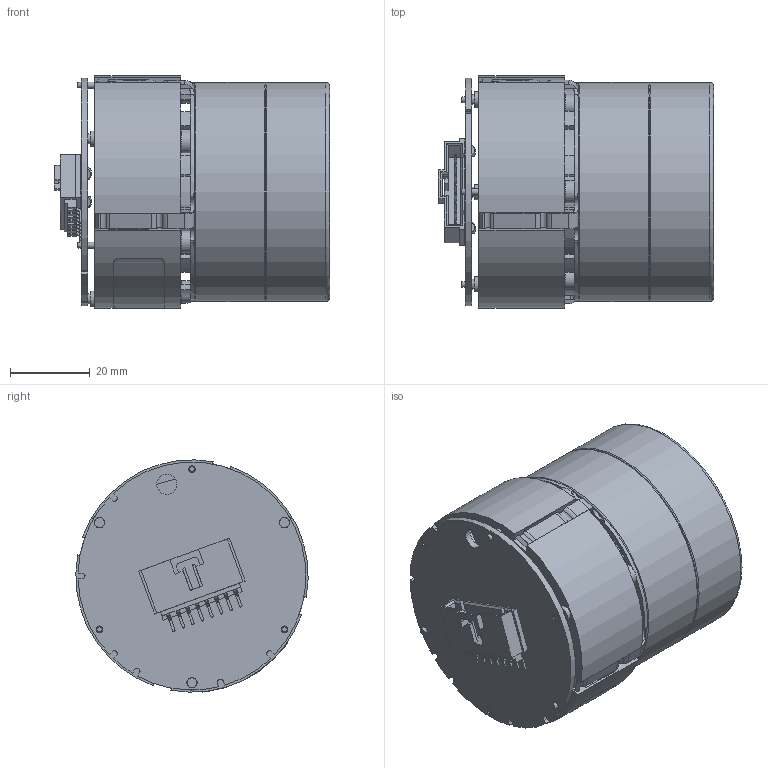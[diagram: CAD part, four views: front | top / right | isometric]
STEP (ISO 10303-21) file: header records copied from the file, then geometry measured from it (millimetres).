
FILE_DESCRIPTION (( 'STEP AP214' ), '1' );
FILE_NAME ('PD02-PM-00A.STEP', '2017-03-03T21:14:39', ( '' ), ( '' ), 'SwSTEP 2.0', 'SolidWorks 2015', '' );
FILE_SCHEMA (( 'AUTOMOTIVE_DESIGN' ));
Length unit declared in the file: millimetre
Products named in the file (20): PD01-SC-00; PD02-MA-00A; Label^PD02-MA-00A; Connector^PD02-MA-00A; Pins^PD02-MA-00A; PCB^PD02-MA-00A; Mol^PD02-MA-00A; Copy of stator 60mNm^PD02-MA-00A; PD02-PU-00; PD02-PM-00A; MB0114; PD02-EP-00; PD02-BO-00; PD02-BB-00; PD02-CU-00
Assembly tree (21 placements, depth 4):
  PD02-PM-00A
    PD02-MA-00A
      Copy of stator 60mNm^PD02-MA-00A
      Mol^PD02-MA-00A
      PCB^PD02-MA-00A
      Pins^PD02-MA-00A  x3
      Connector^PD02-MA-00A
      Label^PD02-MA-00A
    PD02-PU-00
      PD01-SC-00
      PD02-CU-00
      PD02-BO-00
        PD02-BB-00
      PD02-EP-00
      PD01-SC-00
      PD01-SC-00
      PD01-SC-00
      PD01-SC-00
      PD01-SC-00
      MB0114
Bounding box: 68.79 x 58.08 x 58.08 mm (x, y, z)
Volume: 121767.5 mm3; surface area: 63444.6 mm2
Topology: 18 solids, 18 shells, 1174 faces, 3224 edges, 2119 vertices
Faces by surface type: plane 705, cylinder 423, torus 29, cone 15, bspline 2
Full cylindrical faces by diameter (mm): 1.6 x18, 1.7 x3, 2.4 x6, 2.5 x3, 2.55 x3, 3.3 x8, 3.4 x2, 3.8 x3, 5 x1, 5.5 x6, 6 x2, 8.4 x2, 26 x1, 36.1 x1, 38 x1, 42.7 x2, 49.1 x1, 54.8 x2
Entity records: 39417 total; most frequent: CARTESIAN_POINT 6754, DIRECTION 6255, ORIENTED_EDGE 6108, EDGE_CURVE 3054, VECTOR 2115, LINE 2115, AXIS2_PLACEMENT_3D 2070, VERTEX_POINT 2061
